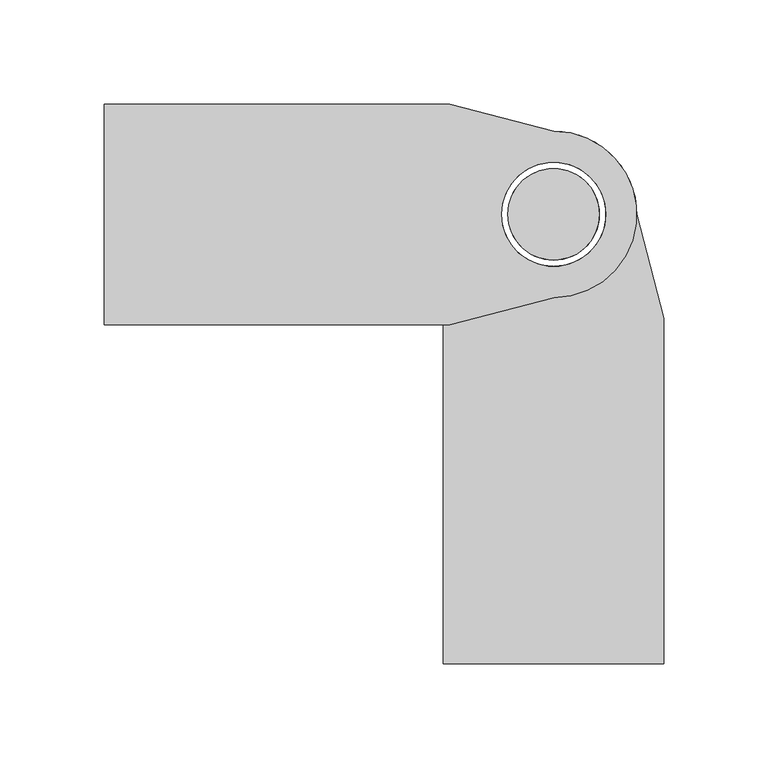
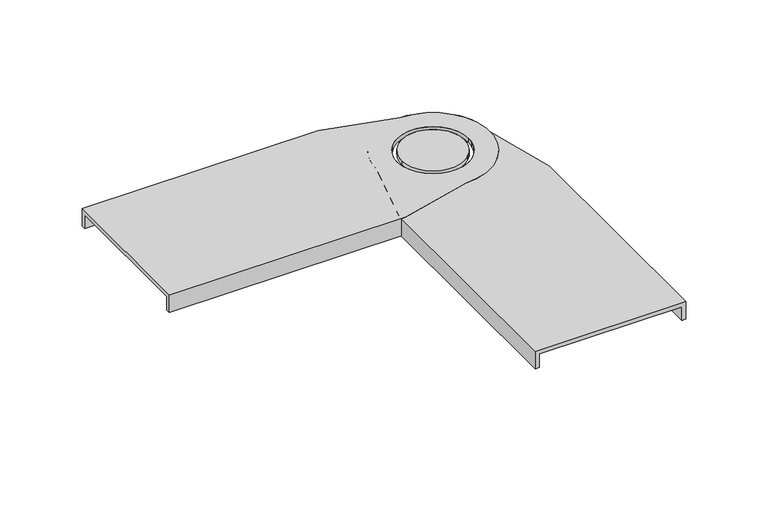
"""IFC4 building model written with IfcOpenShell, lengths in millimetres: cable carrier fitting geometry, BAKS_LDLS_BEND_Articulated connector_LGSU : LGSUT_H100."""

from ifc_helpers import new_model, si_unit, frame, origin, place, context, project, spatial, polyline, circle_curve, source, transform, mapped, element, save
from ifc_brep_helpers import plane_surface, cylinder_surface, revolved_surface, advanced_brep


def cable_carrier_fitting_ef2239ab(model_context):
    return source(origin(), model_context, "Body", "AdvancedBrep", [
        advanced_brep(
        [(-216.0, -53.0, 3.0), (-50.0, -53.0, 3.0), (0.0, -40.0, 3.0), (0.0, 40.0, 3.0), (-50.0, 53.0, 3.0), (-216.0, 53.0, 3.0), (25.0, 0.0, 3.0), (-25.0, 0.0, 3.0), (-50.0, 53.0, 0.0), (0.0, 40.0, 0.0), (0.0, -40.0, 0.0), (-50.0, -53.0, 0.0), (-50.0, -50.0, 0.0), (-216.0, -50.0, 0.0), (-216.0, 50.0, 0.0), (-50.0, 50.0, 0.0), (-25.0, 0.0, 0.0), (25.0, 0.0, 0.0), (-216.0, -53.0, -10.0), (-50.0, -53.0, -10.0), (-50.0, 53.0, -10.0), (-216.0, 53.0, -10.0), (-216.0, 50.0, -10.0), (-216.0, -50.0, -10.0), (-50.0, 50.0, -10.0), (-50.0, -50.0, -10.0)],
        [
            (0, 1),
            (1, 2),
            (2, 3, circle_curve(frame((0.0, 0.0, 3.0), z_axis=(0.0, 0.0, 1.0), x_axis=(-1.0, 0.0, 0.0)), 40.0)),
            (3, 4),
            (4, 5),
            (5, 0),
            (6, 7, circle_curve(frame((0.0, 0.0, 3.0), z_axis=(0.0, 0.0, -1.0), x_axis=(-1.0, 0.0, 0.0)), 25.0)),
            (7, 6, circle_curve(frame((0.0, 0.0, 3.0), z_axis=(0.0, 0.0, -1.0), x_axis=(-1.0, 0.0, 0.0)), 25.0)),
            (8, 9),
            (9, 10, circle_curve(frame((0.0, 0.0, 0.0), z_axis=(0.0, 0.0, -1.0), x_axis=(-1.0, 0.0, 0.0)), 40.0)),
            (10, 11),
            (11, 12),
            (12, 13),
            (13, 14),
            (14, 15),
            (15, 8),
            (16, 17, circle_curve(frame((0.0, 0.0, 0.0), z_axis=(0.0, 0.0, 1.0), x_axis=(-1.0, 0.0, 0.0)), 25.0)),
            (17, 16, circle_curve(frame((0.0, 0.0, 0.0), z_axis=(0.0, 0.0, 1.0), x_axis=(-1.0, 0.0, 0.0)), 25.0)),
            (0, 18),
            (18, 19),
            (19, 11),
            (11, 1),
            (4, 8),
            (8, 20),
            (20, 21),
            (21, 5),
            (21, 22),
            (22, 14),
            (13, 23),
            (23, 18),
            (6, 17),
            (16, 7),
            (10, 2),
            (9, 3),
            (20, 24),
            (24, 22),
            (24, 15),
            (23, 25),
            (25, 19),
            (25, 12),
        ],
        [
            plane_surface(frame((-50.0, -53.0, 3.0), z_axis=(0.0, 0.0, 1.0), x_axis=(1.0, 0.0, 0.0))),
            plane_surface(frame((-50.0, -53.0, 0.0), z_axis=(0.0, 0.0, -1.0), x_axis=(-1.0, 0.0, 0.0))),
            plane_surface(frame((-216.0, -53.0, 3.0), z_axis=(0.0, -1.0, 0.0), x_axis=(0.0, 0.0, -1.0))),
            plane_surface(frame((-50.0, 53.0, 3.0), z_axis=(0.0, 1.0, 0.0), x_axis=(0.0, 0.0, -1.0))),
            plane_surface(frame((-216.0, 53.0, 3.0), z_axis=(-1.0, 0.0, 0.0), x_axis=(0.0, 0.0, -1.0))),
            revolved_surface(polyline([(-25.0, 0.0, 3.0), (-25.0, 0.0, 0.0)]), (0.0, 0.0, 0.0), (0.0, 0.0, 1.0)),
            plane_surface(frame((-50.0, -53.0, 3.0), z_axis=(0.2516338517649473, -0.9678225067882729, 0.0), x_axis=(0.0, 0.0, -1.0))),
            cylinder_surface(frame((0.0, 0.0, 0.0), z_axis=(0.0, 0.0, 1.0), x_axis=(-1.0, 0.0, 0.0)), 40.0),
            plane_surface(frame((0.0, 40.0, 3.0), z_axis=(0.25163385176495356, 0.9678225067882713, 0.0), x_axis=(0.0, 0.0, -1.0))),
            plane_surface(frame((-50.0, 50.0, -10.0), z_axis=(0.0, 0.0, -1.0), x_axis=(-1.0, 0.0, 0.0))),
            plane_surface(frame((-216.0, 50.0, 0.0), z_axis=(0.0, -1.0, 0.0), x_axis=(0.0, 0.0, -1.0))),
            plane_surface(frame((-50.0, 50.0, 0.0), z_axis=(1.0, 0.0, 0.0), x_axis=(0.0, 0.0, -1.0))),
            plane_surface(frame((-50.0, -53.0, -10.0), z_axis=(0.0, 0.0, -1.0), x_axis=(-1.0, 0.0, 0.0))),
            plane_surface(frame((-50.0, -53.0, 0.0), z_axis=(1.0, 0.0, 0.0), x_axis=(0.0, 0.0, -1.0))),
            plane_surface(frame((-50.0, -50.0, 0.0), z_axis=(0.0, 1.0, 0.0), x_axis=(0.0, 0.0, -1.0))),
        ],
        [
            (0, [[1, 2, 3, 4, 5, 6], [7, 8]]),
            (1, [[9, 10, 11, 12, 13, 14, 15, 16], [17, 18]]),
            (2, [[-1, 19, 20, 21, 22]]),
            (3, [[-5, 23, 24, 25, 26]]),
            (4, [[-19, -6, -26, 27, 28, -14, 29, 30]]),
            (5, [[31, -17, 32, -7]]),
            (5, [[-31, -8, -32, -18]]),
            (6, [[-2, -22, -11, 33]]),
            (7, [[-3, -33, -10, 34]]),
            (8, [[-4, -34, -9, -23]]),
            (9, [[-27, -25, 35, 36]]),
            (10, [[-36, 37, -15, -28]]),
            (11, [[-35, -24, -16, -37]]),
            (12, [[-30, 38, 39, -20]]),
            (13, [[-39, 40, -12, -21]]),
            (14, [[-38, -29, -13, -40]]),
        ],
    ),
        advanced_brep(
        [(22.0, 0.0, 3.0), (-22.0, 0.0, 3.0), (-22.0, 0.0, 0.0), (22.0, 0.0, 0.0)],
        [
            (0, 1, circle_curve(frame((0.0, 0.0, 3.0), z_axis=(0.0, 0.0, 1.0), x_axis=(-1.0, 0.0, 0.0)), 22.0)),
            (1, 0, circle_curve(frame((0.0, 0.0, 3.0), z_axis=(0.0, 0.0, 1.0), x_axis=(-1.0, 0.0, 0.0)), 22.0)),
            (2, 3, circle_curve(frame((0.0, 0.0, 0.0), z_axis=(0.0, 0.0, -1.0), x_axis=(-1.0, 0.0, 0.0)), 22.0)),
            (3, 2, circle_curve(frame((0.0, 0.0, 0.0), z_axis=(0.0, 0.0, -1.0), x_axis=(-1.0, 0.0, 0.0)), 22.0)),
            (0, 3),
            (2, 1),
        ],
        [
            plane_surface(frame((-50.0, -53.0, 3.0), z_axis=(0.0, 0.0, 1.0), x_axis=(1.0, 0.0, 0.0))),
            plane_surface(frame((-50.0, -53.0, 0.0), z_axis=(0.0, 0.0, -1.0), x_axis=(-1.0, 0.0, 0.0))),
            cylinder_surface(frame((0.0, 0.0, 0.0), z_axis=(0.0, 0.0, -1.0), x_axis=(-1.0, 0.0, 0.0)), 22.0),
        ],
        [
            (0, [[1, 2]]),
            (1, [[3, 4]]),
            (2, [[5, -3, 6, -1]]),
            (2, [[-5, -2, -6, -4]]),
        ],
    ),
        advanced_brep(
        [(-53.0, -216.0, 3.0), (53.0, -216.0, 3.0), (53.0, -50.0, 3.0), (40.0, 0.0, 3.0), (-40.0, 0.0, 3.0), (-53.0, -50.0, 3.0), (0.0, 25.0, 3.0), (0.0, -25.0, 3.0), (53.0, -50.0, 0.0), (50.0, -50.0, 0.0), (50.0, -216.0, 0.0), (-50.0, -216.0, 0.0), (-50.0, -50.0, 0.0), (-53.0, -50.0, 0.0), (-40.0, 0.0, 0.0), (40.0, 0.0, 0.0), (0.0, -25.0, 0.0), (0.0, 25.0, 0.0), (-53.0, -50.0, -10.0), (-53.0, -216.0, -10.0), (53.0, -216.0, -10.0), (53.0, -50.0, -10.0), (-50.0, -216.0, -10.0), (50.0, -216.0, -10.0), (50.0, -50.0, -10.0), (-50.0, -50.0, -10.0)],
        [
            (0, 1),
            (1, 2),
            (2, 3),
            (3, 4, circle_curve(frame((0.0, 0.0, 3.0), z_axis=(0.0, 0.0, 1.0), x_axis=(0.0, -1.0, 0.0)), 40.0)),
            (4, 5),
            (5, 0),
            (6, 7, circle_curve(frame((0.0, 0.0, 3.0), z_axis=(0.0, 0.0, -1.0), x_axis=(0.0, -1.0, 0.0)), 25.0)),
            (7, 6, circle_curve(frame((0.0, 0.0, 3.0), z_axis=(0.0, 0.0, -1.0), x_axis=(0.0, -1.0, 0.0)), 25.0)),
            (8, 9),
            (9, 10),
            (10, 11),
            (11, 12),
            (12, 13),
            (13, 14),
            (14, 15, circle_curve(frame((0.0, 0.0, 0.0), z_axis=(0.0, 0.0, -1.0), x_axis=(0.0, -1.0, 0.0)), 40.0)),
            (15, 8),
            (16, 17, circle_curve(frame((0.0, 0.0, 0.0), z_axis=(0.0, 0.0, 1.0), x_axis=(0.0, -1.0, 0.0)), 25.0)),
            (17, 16, circle_curve(frame((0.0, 0.0, 0.0), z_axis=(0.0, 0.0, 1.0), x_axis=(0.0, -1.0, 0.0)), 25.0)),
            (5, 13),
            (13, 18),
            (18, 19),
            (19, 0),
            (1, 20),
            (20, 21),
            (21, 8),
            (8, 2),
            (19, 22),
            (22, 11),
            (10, 23),
            (23, 20),
            (7, 16),
            (17, 6),
            (4, 14),
            (3, 15),
            (23, 24),
            (24, 21),
            (9, 24),
            (18, 25),
            (25, 22),
            (12, 25),
        ],
        [
            plane_surface(frame((-53.0, -50.0, 3.0), z_axis=(0.0, 0.0, 1.0), x_axis=(0.0, 1.0, 0.0))),
            plane_surface(frame((-53.0, -50.0, 0.0), z_axis=(0.0, 0.0, -1.0), x_axis=(0.0, -1.0, 0.0))),
            plane_surface(frame((-53.0, -216.0, 3.0), z_axis=(-1.0, 0.0, 0.0), x_axis=(0.0, 0.0, -1.0))),
            plane_surface(frame((53.0, -50.0, 3.0), z_axis=(1.0, 0.0, 0.0), x_axis=(0.0, 0.0, -1.0))),
            plane_surface(frame((53.0, -216.0, 3.0), z_axis=(0.0, -1.0, 0.0), x_axis=(0.0, 0.0, -1.0))),
            revolved_surface(polyline([(0.0, -25.0, 3.0), (0.0, -25.0, 0.0)]), (0.0, 0.0, 0.0), (0.0, 0.0, 1.0)),
            plane_surface(frame((-53.0, -50.0, 3.0), z_axis=(-0.9678225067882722, 0.25163385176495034, 0.0), x_axis=(0.0, 0.0, -1.0))),
            cylinder_surface(frame((0.0, 0.0, 0.0), z_axis=(0.0, 0.0, 1.0), x_axis=(0.0, -1.0, 0.0)), 40.0),
            plane_surface(frame((40.0, 0.0, 3.0), z_axis=(0.9678225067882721, 0.25163385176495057, 0.0), x_axis=(0.0, 0.0, -1.0))),
            plane_surface(frame((50.0, -50.0, -10.0), z_axis=(0.0, 0.0, -1.0), x_axis=(0.0, -1.0, 0.0))),
            plane_surface(frame((50.0, -216.0, 0.0), z_axis=(-1.0, 0.0, 0.0), x_axis=(0.0, 0.0, -1.0))),
            plane_surface(frame((50.0, -50.0, 0.0), z_axis=(0.0, 1.0, 0.0), x_axis=(0.0, 0.0, -1.0))),
            plane_surface(frame((-53.0, -50.0, -10.0), z_axis=(0.0, 0.0, -1.0), x_axis=(0.0, -1.0, 0.0))),
            plane_surface(frame((-53.0, -50.0, 0.0), z_axis=(0.0, 1.0, 0.0), x_axis=(0.0, 0.0, -1.0))),
            plane_surface(frame((-50.0, -50.0, 0.0), z_axis=(1.0, 0.0, 0.0), x_axis=(0.0, 0.0, -1.0))),
        ],
        [
            (0, [[1, 2, 3, 4, 5, 6], [7, 8]]),
            (1, [[9, 10, 11, 12, 13, 14, 15, 16], [17, 18]]),
            (2, [[19, 20, 21, 22, -6]]),
            (3, [[23, 24, 25, 26, -2]]),
            (4, [[27, 28, -11, 29, 30, -23, -1, -22]]),
            (5, [[-8, 31, -18, 32]]),
            (5, [[-17, -31, -7, -32]]),
            (6, [[33, -14, -19, -5]]),
            (7, [[34, -15, -33, -4]]),
            (8, [[-26, -16, -34, -3]]),
            (9, [[35, 36, -24, -30]]),
            (10, [[-29, -10, 37, -35]]),
            (11, [[-37, -9, -25, -36]]),
            (12, [[-21, 38, 39, -27]]),
            (13, [[-20, -13, 40, -38]]),
            (14, [[-40, -12, -28, -39]]),
        ],
    ),
        advanced_brep(
        [(0.0, 22.0, 3.0), (0.0, -22.0, 3.0), (0.0, -22.0, 0.0), (0.0, 22.0, 0.0)],
        [
            (0, 1, circle_curve(frame((0.0, 0.0, 3.0), z_axis=(0.0, 0.0, 1.0), x_axis=(0.0, -1.0, 0.0)), 22.0)),
            (1, 0, circle_curve(frame((0.0, 0.0, 3.0), z_axis=(0.0, 0.0, 1.0), x_axis=(0.0, -1.0, 0.0)), 22.0)),
            (2, 3, circle_curve(frame((0.0, 0.0, 0.0), z_axis=(0.0, 0.0, -1.0), x_axis=(0.0, -1.0, 0.0)), 22.0)),
            (3, 2, circle_curve(frame((0.0, 0.0, 0.0), z_axis=(0.0, 0.0, -1.0), x_axis=(0.0, -1.0, 0.0)), 22.0)),
            (1, 2),
            (3, 0),
        ],
        [
            plane_surface(frame((-53.0, -50.0, 3.0), z_axis=(0.0, 0.0, 1.0), x_axis=(0.0, 1.0, 0.0))),
            plane_surface(frame((-53.0, -50.0, 0.0), z_axis=(0.0, 0.0, -1.0), x_axis=(0.0, -1.0, 0.0))),
            cylinder_surface(frame((0.0, 0.0, 0.0), z_axis=(0.0, 0.0, -1.0), x_axis=(0.0, -1.0, 0.0)), 22.0),
        ],
        [
            (0, [[1, 2]]),
            (1, [[3, 4]]),
            (2, [[-2, 5, -4, 6]]),
            (2, [[-3, -5, -1, -6]]),
        ],
    ),
    ])


if __name__ == "__main__":
    model = new_model("IFC4")
    model_context = context("Model", 3, world=origin())
    ifc_project = project(units=[si_unit("LENGTHUNIT", "METRE", prefix="MILLI")], contexts=[model_context])
    site = spatial("IfcSite", under=ifc_project)
    building = spatial("IfcBuilding", under=site)
    placement = place(None, origin())
    cable_carrier_fitting_shape = cable_carrier_fitting_ef2239ab(model_context)
    element("IfcCableCarrierFitting", 1, ObjectType="BAKS_LDLS_BEND_Articulated connector_LGSU : LGSUT_H100", at=placement, inside=building, context=model_context, shape_type="MappedRepresentation", body=[
        mapped(cable_carrier_fitting_shape, transform((0.0, 0.0, 0.0), x_axis=(1.0, 0.0, 0.0), y_axis=(0.0, 1.0, 0.0), z_axis=(0.0, 0.0, 1.0))),
    ])
    save(model, "model.ifc")
